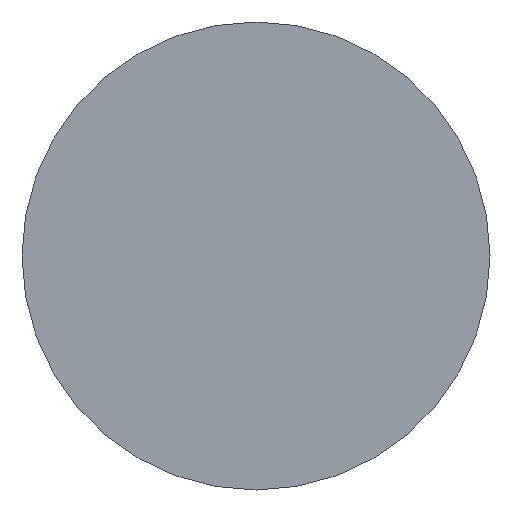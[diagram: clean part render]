
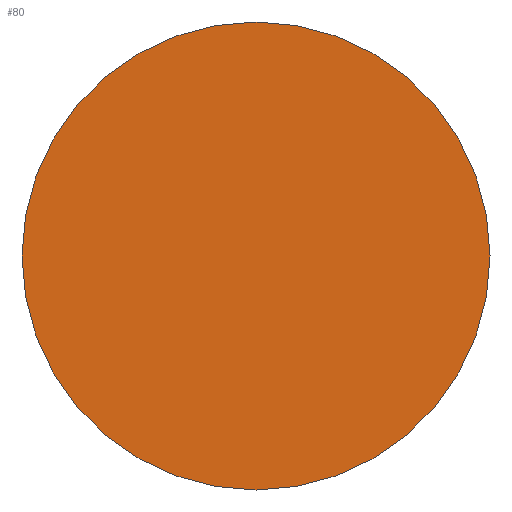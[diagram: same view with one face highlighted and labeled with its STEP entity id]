
A CAD part, left-side view. The second image highlights one B-rep face of the part: STEP entity #80.
In plain terms, the highlighted planar face has unit normal (-1, 0, 0).
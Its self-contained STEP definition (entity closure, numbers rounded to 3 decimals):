
#17=PLANE('',#99);
#29=FACE_OUTER_BOUND('',#39,.T.);
#39=EDGE_LOOP('',(#69));
#48=CIRCLE('',#100,4.25);
#54=VERTEX_POINT('',#146);
#60=EDGE_CURVE('',#54,#54,#48,.T.);
#69=ORIENTED_EDGE('',*,*,#60,.F.);
#80=ADVANCED_FACE('',(#29),#17,.T.);
#99=AXIS2_PLACEMENT_3D('',#145,#122,#123);
#100=AXIS2_PLACEMENT_3D('',#147,#124,#125);
#122=DIRECTION('center_axis',(-1.,0.,0.));
#123=DIRECTION('ref_axis',(0.,0.,1.));
#124=DIRECTION('center_axis',(1.,0.,0.));
#125=DIRECTION('ref_axis',(0.,0.,-1.));
#145=CARTESIAN_POINT('Origin',(-5.,4.25,0.));
#146=CARTESIAN_POINT('',(-5.,4.25,0.));
#147=CARTESIAN_POINT('Origin',(-5.,0.,0.));
